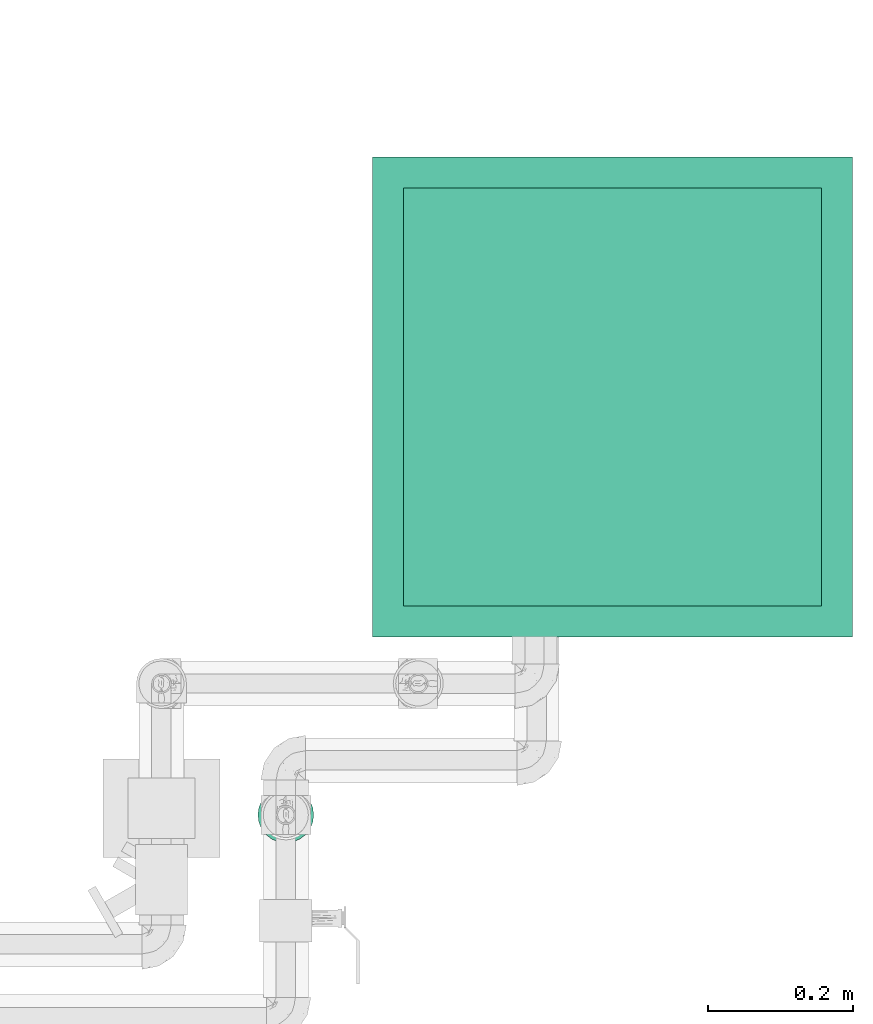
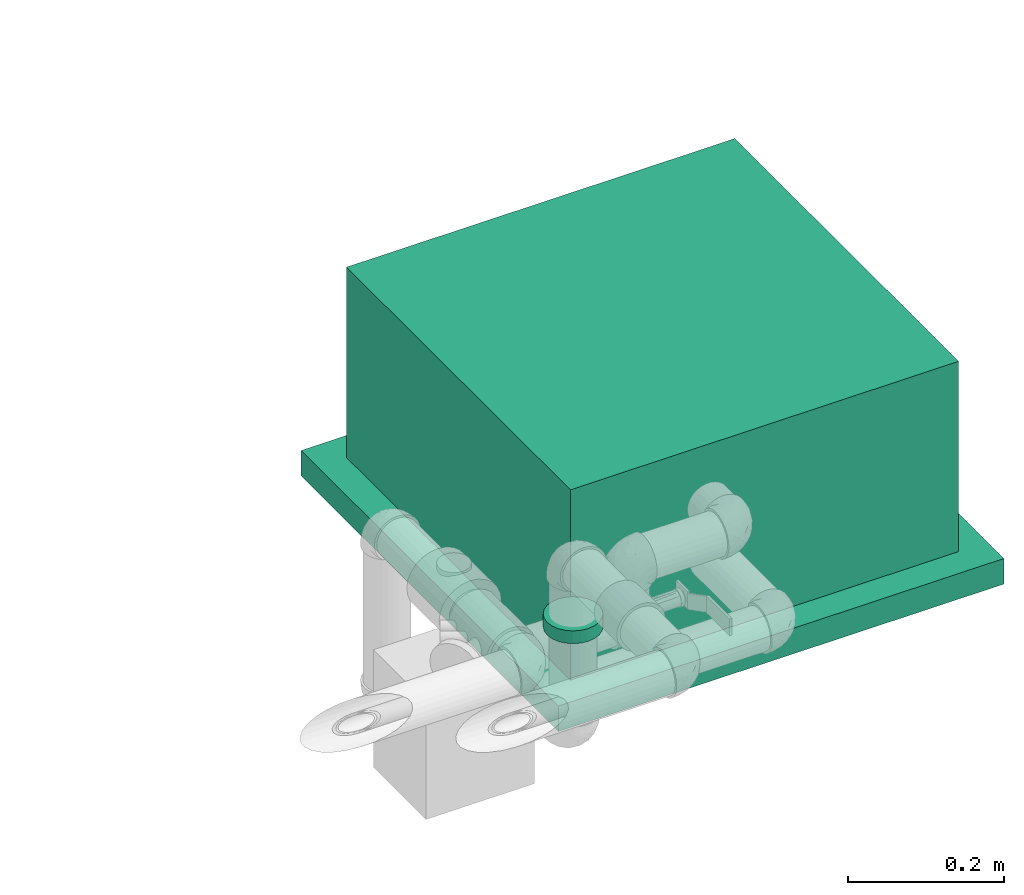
# One storey, part 12 of 13: 1 energy conversion device, 1 flow fitting.
"""IFC2X3 building model written with IfcOpenShell, lengths in millimetres."""

from ifc_helpers import new_model, entity, si_unit, converted_unit, derived_unit, direction, frame, origin_with_axes, place, context, subcontext, project, spatial, open_shell, surface_model, source, transform, mapped, type_object, element, save


model = new_model("IFC2X3")

# Units and contexts
model_context = context("Model", 3, precision=0.01, world=frame((0.0, 4.29681676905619e-09, 0.0)), true_north=direction((4.01073788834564e-13, 1.0)))
plan_context = context("Plan", 3, precision=0.01, world=frame((0.0, 4.29681676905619e-09, 0.0)), true_north=direction((4.01073788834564e-13, 1.0)))
body_context = subcontext(model_context, "Body", "Model", "MODEL_VIEW")
ifc_project = project(units=[converted_unit("PLANEANGLEUNIT", "DEGREE", entity("IfcPositiveLengthMeasure", 0.0174532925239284), si_unit("PLANEANGLEUNIT", "RADIAN"), dimensions=[0, 0, 0, 0, 0, 0, 0]), si_unit("AREAUNIT", "SQUARE_METRE"), si_unit("LENGTHUNIT", "METRE", prefix="MILLI"), si_unit("MASSUNIT", "GRAM", prefix="KILO"), si_unit("POWERUNIT", "WATT"), si_unit("PRESSUREUNIT", "PASCAL"), si_unit("FORCEUNIT", "NEWTON", prefix="KILO"), si_unit("ELECTRICVOLTAGEUNIT", "VOLT"), si_unit("ELECTRICCURRENTUNIT", "AMPERE"), si_unit("THERMODYNAMICTEMPERATUREUNIT", "DEGREE_CELSIUS"), si_unit("TIMEUNIT", "SECOND"), si_unit("VOLUMEUNIT", "CUBIC_METRE"), derived_unit("LINEARVELOCITYUNIT", [(si_unit("LENGTHUNIT", "METRE"), 1), (si_unit("TIMEUNIT", "SECOND"), -1)]), derived_unit("VOLUMETRICFLOWRATEUNIT", [(si_unit("VOLUMEUNIT", "CUBIC_METRE"), 1), (si_unit("TIMEUNIT", "SECOND"), -1)]), derived_unit("THERMALTRANSMITTANCEUNIT", [(si_unit("POWERUNIT", "WATT"), 1), (si_unit("THERMODYNAMICTEMPERATUREUNIT", "KELVIN"), -1), (si_unit("AREAUNIT", "SQUARE_METRE"), -1)]), derived_unit("SOUNDPRESSUREUNIT", [(si_unit("PRESSUREUNIT", "PASCAL"), 1)])], contexts=[model_context, plan_context])

# Site, building, storey
site_placement = place(None, frame((0.0, -4.29681676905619e-09, 0.0), z_axis=(0.0, 0.0, 1.0), x_axis=(1.0, 0.0, 0.0)))
site = spatial("IfcSite", under=ifc_project, at=site_placement, Name="ENGM", CompositionType="ELEMENT")
building_placement = place(site_placement, frame((0.0, 4.29681676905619e-09, 0.0), z_axis=(0.0, 0.0, 1.0), x_axis=(1.0, 0.0, 0.0)))
building = spatial("IfcBuilding", under=site, at=building_placement, Name="TI", CompositionType="ELEMENT")
storey_placement = place(building_placement, frame((0.0, 0.0, 210900.0), z_axis=(0.0, 0.0, 1.0), x_axis=(1.0, 0.0, 0.0)))
storey = spatial("IfcBuildingStorey", under=building, at=storey_placement, Name="Nivå F", CompositionType="ELEMENT", Elevation=210900.0)

# Energy conversion device
coil_type = type_object("IfcCoilType", Name="GCS1.UWW.K01", PredefinedType="WATERHEATINGCOIL")
shared_shape_1 = source(origin_with_axes(), body_context, "Body", "SurfaceModel", [
    surface_model("IfcShellBasedSurfaceModel", [(-329.99999, 329.99999, 0.0), (-329.99999, -329.99999, 0.0), (329.99999, -329.99999, 0.0), (329.99999, 329.99999, 0.0), (329.99999, 329.99999, -40.0), (329.99999, -329.99999, -40.0), (-329.99999, -329.99999, -40.0), (-329.99999, 329.99999, -40.0), (-287.5, 287.5, 25.0), (-287.5, -287.5, 25.0), (287.5, -287.5, 25.0), (287.5, 287.5, 25.0), (287.5, 287.5, 0.0), (287.5, -287.5, 0.0), (-287.5, -287.5, 0.0), (-287.5, 287.5, 0.0), (-287.5, 287.5, 298.0), (-287.5, -287.5, 298.0), (287.5, -287.5, 298.0), (287.5, 287.5, 298.0), (0.0, -95.0728, 247.58391), (0.0, -93.26394, 248.33317), (0.0, -91.71064, 249.52505), (0.0, -97.01395, 247.32836), (0.0, -89.7695, 252.88722), (0.0, -89.51394, 254.82836), (0.0, -90.51875, 251.07835), (0.0, -95.0728, 262.07279), (0.0, -104.25839, 252.88722), (0.0, -98.95509, 247.58391), (0.0, -102.31725, 249.52505), (0.0, -100.76394, 248.33317), (0.0, -103.50913, 251.07835), (0.0, -91.71064, 260.13165), (0.0, -90.51875, 258.57835), (0.0, -104.51394, 254.82836), (0.0, -93.26394, 261.32355), (0.0, -97.01395, 262.32836), (0.0, -103.50913, 258.57835), (0.0, -104.25839, 256.7695), (0.0, -102.31725, 260.13165), (0.0, -100.76394, 261.32355), (0.0, -98.95509, 262.07279), (0.0, -89.7695, 256.7695), (-10.0, -95.0728, 262.07279), (-10.0, -104.51394, 254.82836), (-10.0, -97.01395, 262.32836), (-10.0, -91.71064, 260.13165), (-10.0, -93.26394, 261.32355), (-10.0, -89.51394, 254.82836), (-10.0, -90.51875, 258.57835), (-10.0, -104.25839, 252.88722), (-10.0, -91.71064, 249.52505), (-10.0, -100.76394, 261.32355), (-10.0, -102.31725, 260.13165), (-10.0, -98.95509, 262.07279), (-10.0, -103.50913, 258.57835), (-10.0, -104.25839, 256.7695), (-10.0, -89.7695, 256.7695), (-10.0, -89.7695, 252.88722), (-10.0, -90.51875, 251.07835), (-10.0, -93.26394, 248.33317), (-10.0, -95.0728, 247.58391), (-10.0, -97.01395, 247.32836), (-10.0, -103.50913, 251.07835), (-10.0, -98.95509, 247.58391), (-10.0, -102.31725, 249.52505), (-10.0, -100.76394, 248.33317), (0.0, -71.52168, 246.68874), (0.0, -69.71283, 247.43799), (0.0, -68.15953, 248.62988), (0.0, -73.46283, 246.43318), (0.0, -73.46283, 261.43317), (0.0, -66.21838, 251.99203), (0.0, -66.96764, 250.18318), (0.0, -66.21838, 255.87432), (0.0, -75.40397, 246.68874), (0.0, -78.76613, 248.62988), (0.0, -77.21283, 247.43799), (0.0, -79.95802, 250.18318), (0.0, -80.96283, 253.93317), (0.0, -80.70727, 251.99203), (0.0, -65.96283, 253.93317), (0.0, -66.96764, 257.68318), (0.0, -68.15953, 259.23648), (0.0, -69.71283, 260.42836), (0.0, -71.52168, 261.17763), (0.0, -77.21283, 260.42836), (0.0, -80.70727, 255.87432), (0.0, -78.76613, 259.23648), (0.0, -79.95802, 257.68318), (0.0, -75.40397, 261.17763), (-10.0, -73.46283, 261.43317), (-10.0, -71.52168, 261.17763), (-10.0, -69.71283, 260.42836), (-10.0, -68.15953, 259.23648), (-10.0, -66.96764, 257.68318), (-10.0, -66.21838, 255.87432), (-10.0, -68.15953, 248.62988), (-10.0, -79.95802, 250.18318), (-10.0, -77.21283, 260.42836), (-10.0, -78.76613, 259.23648), (-10.0, -75.40397, 261.17763), (-10.0, -80.70727, 255.87432), (-10.0, -79.95802, 257.68318), (-10.0, -80.96283, 253.93317), (-10.0, -66.21838, 251.99203), (-10.0, -66.96764, 250.18318), (-10.0, -69.71283, 247.43799), (-10.0, -71.52168, 246.68874), (-10.0, -73.46283, 246.43318), (-10.0, -75.40397, 246.68874), (-10.0, -78.76613, 248.62988), (-10.0, -80.70727, 251.99203), (-10.0, -77.21283, 247.43799), (-10.0, -65.96283, 253.93317)], [open_shell([[[0, 1, 2]], [[2, 3, 0]], [[4, 5, 6]], [[6, 7, 4]], [[2, 1, 6]], [[6, 5, 2]], [[3, 2, 5]], [[5, 4, 3]], [[0, 3, 4]], [[4, 7, 0]], [[1, 0, 7]], [[7, 6, 1]], [[8, 9, 10]], [[10, 11, 8]], [[12, 13, 14]], [[14, 15, 12]], [[10, 9, 14]], [[14, 13, 10]], [[11, 10, 13]], [[13, 12, 11]], [[8, 11, 12]], [[12, 15, 8]], [[9, 8, 15]], [[15, 14, 9]], [[16, 17, 18]], [[18, 19, 16]], [[11, 10, 9]], [[9, 8, 11]], [[18, 17, 10]], [[9, 10, 17]], [[19, 18, 11]], [[10, 11, 18]], [[16, 19, 8]], [[11, 8, 19]], [[17, 16, 9]], [[8, 9, 16]], [[20, 21, 22]], [[23, 20, 22]], [[24, 25, 22]], [[24, 22, 26]], [[27, 28, 22]], [[29, 30, 31]], [[29, 23, 22]], [[29, 32, 30]], [[32, 29, 28]], [[22, 28, 29]], [[22, 25, 33]], [[34, 33, 25]], [[33, 27, 22]], [[28, 27, 35]], [[27, 33, 36]], [[35, 27, 37]], [[35, 38, 39]], [[38, 35, 40]], [[35, 41, 40]], [[35, 37, 41]], [[37, 42, 41]], [[25, 43, 34]], [[44, 45, 46]], [[47, 44, 48]], [[49, 47, 50]], [[45, 44, 51]], [[44, 47, 52]], [[53, 45, 54]], [[53, 55, 46]], [[56, 45, 57]], [[45, 56, 54]], [[46, 45, 53]], [[49, 50, 58]], [[52, 49, 59]], [[52, 59, 60]], [[52, 61, 62]], [[52, 51, 44]], [[63, 52, 62]], [[64, 65, 66]], [[65, 64, 51]], [[66, 65, 67]], [[51, 52, 65]], [[52, 63, 65]], [[52, 47, 49]], [[51, 28, 45]], [[64, 32, 51]], [[31, 66, 67]], [[64, 66, 30]], [[29, 67, 65]], [[51, 32, 28]], [[28, 35, 45]], [[29, 31, 67]], [[30, 66, 31]], [[30, 32, 64]], [[23, 29, 65]], [[65, 63, 23]], [[62, 20, 63]], [[61, 21, 62]], [[26, 52, 60]], [[61, 52, 22]], [[24, 60, 59]], [[61, 22, 21]], [[21, 20, 62]], [[25, 24, 59]], [[26, 60, 24]], [[26, 22, 52]], [[49, 25, 59]], [[63, 20, 23]], [[58, 43, 49]], [[50, 34, 58]], [[36, 47, 48]], [[50, 47, 33]], [[27, 48, 44]], [[58, 34, 43]], [[43, 25, 49]], [[27, 36, 48]], [[33, 47, 36]], [[33, 34, 50]], [[37, 27, 44]], [[44, 46, 37]], [[55, 42, 46]], [[53, 41, 55]], [[38, 54, 56]], [[53, 54, 40]], [[39, 56, 57]], [[53, 40, 41]], [[41, 42, 55]], [[35, 39, 57]], [[38, 56, 39]], [[38, 40, 54]], [[45, 35, 57]], [[46, 42, 37]], [[68, 69, 70]], [[71, 68, 70]], [[70, 72, 71]], [[73, 70, 74]], [[70, 73, 75]], [[76, 77, 78]], [[72, 76, 71]], [[76, 79, 77]], [[76, 72, 79]], [[79, 80, 81]], [[75, 73, 82]], [[75, 83, 84]], [[84, 72, 70]], [[85, 86, 72]], [[85, 72, 84]], [[79, 72, 87]], [[88, 89, 90]], [[88, 80, 79]], [[88, 79, 89]], [[87, 89, 79]], [[72, 91, 87]], [[70, 75, 84]], [[92, 93, 94]], [[92, 94, 95]], [[95, 96, 97]], [[92, 95, 98]], [[92, 99, 100]], [[100, 99, 101]], [[100, 102, 92]], [[101, 103, 104]], [[105, 103, 99]], [[101, 99, 103]], [[98, 95, 97]], [[97, 106, 98]], [[98, 106, 107]], [[98, 108, 109]], [[110, 92, 98]], [[110, 98, 109]], [[99, 111, 112]], [[113, 105, 99]], [[112, 111, 114]], [[92, 111, 99]], [[111, 92, 110]], [[97, 115, 106]], [[113, 81, 105]], [[99, 79, 113]], [[78, 112, 114]], [[99, 112, 77]], [[76, 114, 111]], [[113, 79, 81]], [[81, 80, 105]], [[76, 78, 114]], [[77, 112, 78]], [[77, 79, 99]], [[71, 76, 111]], [[111, 110, 71]], [[109, 68, 110]], [[108, 69, 109]], [[74, 98, 107]], [[108, 98, 70]], [[73, 107, 106]], [[108, 70, 69]], [[69, 68, 109]], [[82, 73, 106]], [[74, 107, 73]], [[74, 70, 98]], [[115, 82, 106]], [[110, 68, 71]], [[97, 75, 115]], [[96, 83, 97]], [[85, 95, 94]], [[96, 95, 84]], [[86, 94, 93]], [[97, 83, 75]], [[75, 82, 115]], [[86, 85, 94]], [[84, 95, 85]], [[84, 83, 96]], [[72, 86, 93]], [[93, 92, 72]], [[102, 91, 92]], [[100, 87, 102]], [[90, 101, 104]], [[100, 101, 89]], [[88, 104, 103]], [[100, 89, 87]], [[87, 91, 102]], [[80, 88, 103]], [[90, 104, 88]], [[90, 89, 101]], [[105, 80, 103]], [[92, 91, 72]]])]),
])
energy_conversion_device_placement = place(storey_placement, frame((610706.79276, 691994.57926, 2320.0), z_axis=(0.0, 0.0, 1.0), x_axis=(0.0, 1.0, 0.0)))
element("IfcEnergyConversionDevice", 1, at=energy_conversion_device_placement, inside=storey, type_object=coil_type, Name="GCS1.UWW.K01", context=body_context, shape_type="MappedRepresentation", body=[
    mapped(shared_shape_1, transform((0.0, 0.0, 0.0), scale=1.0)),
])

# Flow fitting
pipe_fitting_type = type_object("IfcPipeFittingType", Name="magi_pipe_fe_joint_001", PredefinedType="CONNECTOR")
shared_shape_2 = source(origin_with_axes(), body_context, "Body", "SurfaceModel", [
    surface_model("IfcShellBasedSurfaceModel", [(0.0, 0.0, -38.4), (0.0, -9.93865, -37.09155), (0.0, 9.93865, -37.09155), (0.0, 19.2, -33.25538), (0.0, 27.1529, -27.1529), (0.0, 37.09155, -9.93865), (0.0, 33.25538, -19.2), (0.0, -27.1529, -27.1529), (0.0, 0.0, 38.4), (0.0, -19.2, -33.25538), (0.0, -33.25538, -19.2), (0.0, -37.09155, -9.93865), (0.0, -37.09155, 9.93865), (0.0, -38.4, 0.0), (0.0, 9.93865, 37.09155), (0.0, 33.25538, 19.2), (0.0, 37.09155, 9.93865), (0.0, 19.2, 33.25538), (0.0, 27.1529, 27.1529), (0.0, -27.1529, 27.1529), (0.0, -19.2, 33.25538), (0.0, -33.25538, 19.2), (0.0, -9.93865, 37.09155), (0.0, 38.4, 0.0), (20.0, 9.93865, -37.09155), (20.0, -9.93865, -37.09155), (20.0, 0.0, -38.4), (20.0, 27.1529, -27.1529), (20.0, 19.2, -33.25538), (20.0, 33.25538, -19.2), (20.0, 37.09155, -9.93865), (20.0, 0.0, 38.4), (20.0, -27.1529, -27.1529), (20.0, -19.2, -33.25538), (20.0, -37.09155, -9.93865), (20.0, -33.25538, -19.2), (20.0, -38.4, 0.0), (20.0, -37.09155, 9.93865), (20.0, 9.93865, 37.09155), (20.0, 37.09155, 9.93865), (20.0, 33.25538, 19.2), (20.0, 19.2, 33.25538), (20.0, 27.1529, 27.1529), (20.0, -33.25538, 19.2), (20.0, -19.2, 33.25538), (20.0, -27.1529, 27.1529), (20.0, -9.93865, 37.09155), (20.0, 38.4, 0.0), (0.0, 6.7, -11.60474), (0.0, 3.46818, -12.94341), (0.0, 0.0, -13.4), (0.0, 9.47523, -9.47523), (0.0, 12.94341, -3.46818), (0.0, 11.60474, -6.7), (0.0, -11.60474, -6.7), (0.0, -6.7, -11.60474), (0.0, -9.47523, -9.47523), (0.0, -3.46818, -12.94341), (0.0, -12.94341, -3.46818), (0.0, -13.4, 0.0), (0.0, -12.94341, 3.46818), (0.0, 6.7, 11.60474), (0.0, 11.60474, 6.7), (0.0, 12.94341, 3.46818), (0.0, 9.47523, 9.47523), (0.0, 3.46818, 12.94341), (0.0, -9.47523, 9.47523), (0.0, -6.7, 11.60474), (0.0, -11.60474, 6.7), (0.0, -3.46818, 12.94341), (0.0, 0.0, 13.4), (0.0, 13.4, 0.0), (20.0, 0.0, -13.4), (20.0, 3.46818, -12.94341), (20.0, 6.7, -11.60474), (20.0, 9.47523, -9.47523), (20.0, -12.94341, 3.46818), (20.0, 11.60474, -6.7), (20.0, -11.60474, -6.7), (20.0, -12.94341, -3.46818), (20.0, -3.46818, -12.94341), (20.0, -9.47523, -9.47523), (20.0, -6.7, -11.60474), (20.0, -13.4, 0.0), (20.0, 12.94341, -3.46818), (20.0, 13.4, 0.0), (20.0, 12.94341, 3.46818), (20.0, 11.60474, 6.7), (20.0, 6.7, 11.60474), (20.0, 9.47523, 9.47523), (20.0, 0.0, 13.4), (20.0, 3.46818, 12.94341), (20.0, -11.60474, 6.7), (20.0, -6.7, 11.60474), (20.0, -9.47523, 9.47523), (20.0, -3.46818, 12.94341)], [open_shell([[[0, 1, 2]], [[3, 2, 4]], [[5, 6, 4]], [[2, 5, 4]], [[2, 7, 8]], [[9, 7, 1]], [[7, 2, 1]], [[10, 11, 7]], [[12, 11, 13]], [[12, 7, 11]], [[5, 2, 14]], [[5, 15, 16]], [[5, 14, 15]], [[15, 14, 17]], [[18, 15, 17]], [[2, 8, 14]], [[19, 20, 21]], [[12, 21, 8]], [[22, 8, 20]], [[21, 20, 8]], [[12, 8, 7]], [[16, 23, 5]], [[24, 25, 26]], [[27, 24, 28]], [[27, 29, 30]], [[27, 30, 24]], [[24, 31, 32]], [[25, 32, 33]], [[25, 24, 32]], [[32, 34, 35]], [[36, 34, 37]], [[34, 32, 37]], [[24, 30, 38]], [[39, 40, 30]], [[40, 38, 30]], [[41, 38, 40]], [[41, 40, 42]], [[38, 31, 24]], [[43, 44, 45]], [[31, 43, 37]], [[44, 31, 46]], [[31, 44, 43]], [[32, 31, 37]], [[30, 47, 39]], [[37, 13, 36]], [[43, 12, 37]], [[19, 45, 44]], [[43, 45, 21]], [[20, 44, 46]], [[43, 21, 12]], [[12, 13, 37]], [[22, 31, 8]], [[22, 20, 46]], [[19, 44, 20]], [[19, 21, 45]], [[31, 22, 46]], [[41, 14, 38]], [[42, 17, 41]], [[15, 40, 39]], [[42, 40, 18]], [[16, 39, 47]], [[41, 17, 14]], [[14, 8, 38]], [[16, 15, 39]], [[18, 40, 15]], [[18, 17, 42]], [[23, 16, 47]], [[38, 8, 31]], [[30, 23, 47]], [[29, 5, 30]], [[4, 27, 28]], [[29, 27, 6]], [[3, 28, 24]], [[29, 6, 5]], [[5, 23, 30]], [[2, 26, 0]], [[2, 3, 24]], [[4, 28, 3]], [[4, 6, 27]], [[26, 2, 24]], [[33, 1, 25]], [[32, 9, 33]], [[34, 36, 11]], [[32, 35, 7]], [[35, 34, 10]], [[33, 9, 1]], [[1, 0, 25]], [[13, 11, 36]], [[7, 35, 10]], [[7, 9, 32]], [[34, 11, 10]], [[25, 0, 26]], [[48, 49, 50]], [[51, 48, 50]], [[52, 53, 51]], [[54, 51, 50]], [[52, 51, 54]], [[55, 56, 57]], [[56, 50, 57]], [[50, 56, 54]], [[54, 58, 52]], [[59, 60, 58]], [[61, 52, 58]], [[52, 62, 63]], [[52, 61, 62]], [[58, 60, 61]], [[64, 62, 61]], [[65, 61, 60]], [[66, 67, 68]], [[60, 68, 69]], [[67, 69, 68]], [[70, 60, 69]], [[70, 65, 60]], [[52, 63, 71]], [[72, 73, 74]], [[72, 74, 75]], [[76, 75, 77]], [[72, 75, 78]], [[76, 79, 75]], [[80, 81, 82]], [[81, 80, 78]], [[72, 78, 80]], [[75, 79, 78]], [[79, 76, 83]], [[84, 76, 77]], [[85, 86, 87]], [[85, 87, 88]], [[85, 88, 76]], [[88, 87, 89]], [[90, 88, 91]], [[92, 93, 94]], [[90, 92, 76]], [[92, 95, 93]], [[95, 92, 90]], [[76, 88, 90]], [[85, 76, 84]], [[76, 59, 83]], [[92, 60, 76]], [[66, 94, 93]], [[92, 94, 68]], [[67, 93, 95]], [[92, 68, 60]], [[60, 59, 76]], [[69, 90, 70]], [[69, 67, 95]], [[66, 93, 67]], [[66, 68, 94]], [[90, 69, 95]], [[61, 88, 89]], [[91, 88, 65]], [[63, 87, 86]], [[87, 62, 89]], [[85, 71, 86]], [[91, 65, 70]], [[65, 88, 61]], [[61, 89, 64]], [[89, 62, 64]], [[63, 62, 87]], [[86, 71, 63]], [[91, 70, 90]], [[84, 71, 85]], [[77, 52, 84]], [[51, 75, 74]], [[77, 75, 53]], [[48, 74, 73]], [[77, 53, 52]], [[52, 71, 84]], [[49, 72, 50]], [[49, 48, 73]], [[51, 74, 48]], [[51, 53, 75]], [[72, 49, 73]], [[82, 55, 80]], [[81, 56, 82]], [[58, 78, 79]], [[54, 81, 78]], [[59, 79, 83]], [[50, 72, 57]], [[57, 80, 55]], [[82, 56, 55]], [[81, 54, 56]], [[58, 54, 78]], [[79, 59, 58]], [[57, 72, 80]]])]),
])
flow_fitting_placement = place(storey_placement, frame((610257.26164, 691419.90405, 2654.79999999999), z_axis=(0.0, 1.0, 0.0), x_axis=(0.0, 0.0, -1.0)))
element("IfcFlowFitting", 2, at=flow_fitting_placement, inside=storey, type_object=pipe_fitting_type, Name="magi_pipe_fe_joint_001", context=body_context, shape_type="MappedRepresentation", body=[
    mapped(shared_shape_2, transform((0.0, 0.0, 0.0), scale=1.0)),
])

save(model, "model.ifc")
